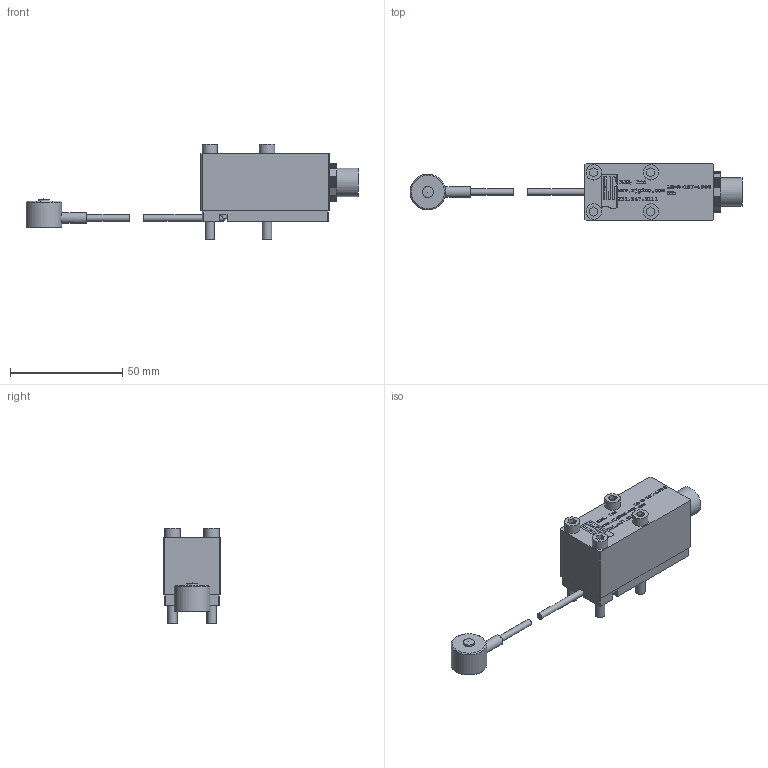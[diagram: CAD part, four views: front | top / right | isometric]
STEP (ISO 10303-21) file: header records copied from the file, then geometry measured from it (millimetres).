
FILE_DESCRIPTION( ( 'STEP AP214' ), '1' );
FILE_NAME( 'R:/Tracy/solid model database/finals/LS-B-159-4000/LS-B-159-4000.stp', '2008-03-26T18:38:18', ( ' ' ), ( ' ' ), 'XStep 1.0', 'VISI-Series', ' ' );
FILE_SCHEMA( ( 'automotive_design' ) );
Length unit declared in the file: inch
Products named in the file (10): 1; 2; 3; 4; 5; 6; 7; 8; 9; 10
Bounding box: 147.62 x 25.4 x 42.27 mm (x, y, z)
Volume: 5401.9 mm3; surface area: 15699.9 mm2
Topology: 9 solids, 10 shells, 1707 faces, 4817 edges, 3218 vertices
Faces by surface type: cylinder 948, plane 676, extrusion 71, cone 10, sphere 2
Full cylindrical faces by diameter (mm): 1.207 x4, 1.449 x8, 2.794 x3, 3.2 x1, 4.166 x4, 4.775 x1, 4.877 x1, 5.08 x4, 6.858 x4, 12.636 x1, 15.875 x1
Entity records: 69903 total; most frequent: CARTESIAN_POINT 10508, DIRECTION 9863, ORIENTED_EDGE 9486, EDGE_CURVE 4743, AXIS2_PLACEMENT_3D 3552, VERTEX_POINT 3186, VECTOR 2759, LINE 2682
